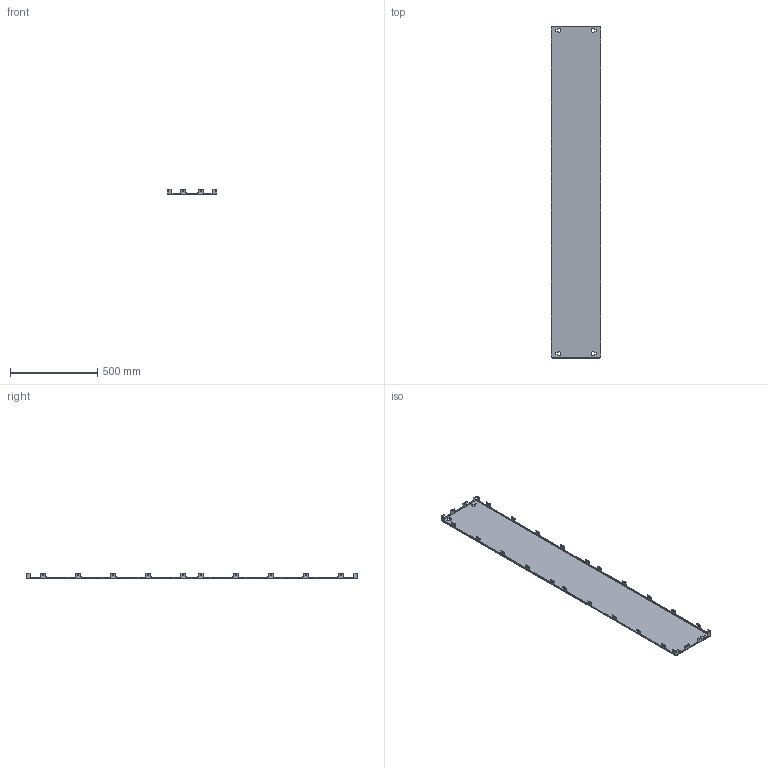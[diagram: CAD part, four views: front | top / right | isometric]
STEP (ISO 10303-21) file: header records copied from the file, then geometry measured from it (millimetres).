
FILE_DESCRIPTION (( 'STEP AP203' ), '1' );
FILE_NAME ('R5LPS2004.STEP', '2021-12-17T12:22:14', ( '' ), ( '' ), 'SwSTEP 2.0', 'SolidWorks 2020', '' );
FILE_SCHEMA (( 'CONFIG_CONTROL_DESIGN' ));
Length unit declared in the file: millimetre
Products named in the file (1): R5LPS2004
Bounding box: 284 x 1898 x 32.5 mm (x, y, z)
Volume: 1175253.6 mm3; surface area: 1188712.1 mm2
Topology: 1 solids, 1 shells, 432 faces, 1258 edges, 828 vertices
Faces by surface type: plane 274, cylinder 158
Entity records: 14431 total; most frequent: CARTESIAN_POINT 2519, ORIENTED_EDGE 2516, DIRECTION 2440, EDGE_CURVE 1258, LINE 942, VECTOR 942, VERTEX_POINT 828, AXIS2_PLACEMENT_3D 749
